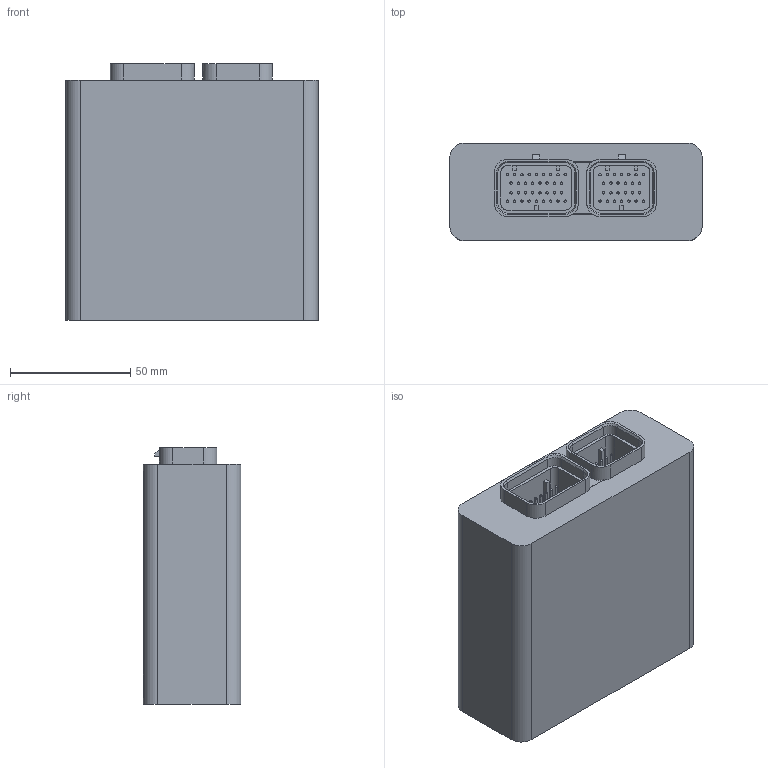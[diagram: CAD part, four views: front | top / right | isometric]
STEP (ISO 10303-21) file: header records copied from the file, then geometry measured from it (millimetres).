
FILE_DESCRIPTION(/* description */ ('Alibre Inc.'),/* implementation_level */ '2;1');
FILE_NAME(/* name */ 'export2',/* time_stamp */ '2018-02-05T14:45:46+11:00',/* author */ (''),/* organization */ (''),/* preprocessor_version */ 'ST-DEVELOPER v14',/* originating_system */ 'Alibre',/* authorisation */ '');
FILE_SCHEMA (('AUTOMOTIVE_DESIGN'));
Length unit declared in the file: centimetre
Bounding box: 105 x 40.6 x 106.8 mm (x, y, z)
Volume: 402813.8 mm3; surface area: 62043.3 mm2
Topology: 2 solids, 2 shells, 1006 faces, 2320 edges, 1460 vertices
Faces by surface type: cylinder 588, plane 290, revolution 120, cone 8
Entity records: 30298 total; most frequent: CARTESIAN_POINT 5582, DIRECTION 5194, ORIENTED_EDGE 4640, EDGE_CURVE 2320, AXIS2_PLACEMENT_3D 2178, VERTEX_POINT 1460, CIRCLE 1312, EDGE_LOOP 1272
